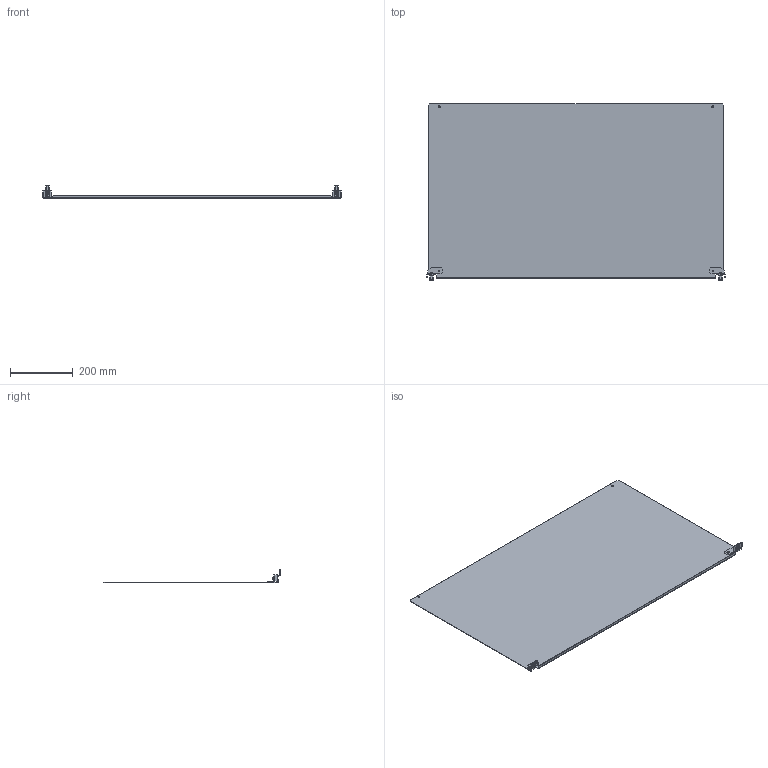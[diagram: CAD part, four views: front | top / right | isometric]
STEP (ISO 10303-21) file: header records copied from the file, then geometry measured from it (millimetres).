
FILE_DESCRIPTION(('CAx-IF Rec.Pracs.---Model Styling and Organization---1.2---2011-12-15','CAx-IF Rec.Pracs.---Geometric and Assembly Validation Properties---4.1---2014-06-16','CAx-IF Rec.Pracs.---PMI Polyline Presentation---2.0---2013-05-24'),'2;1');
FILE_NAME('R5RCB1006.stp','2021-05-06T04:10:16+03:00',(''),(''),'STEP Interface 4.4 by CT CoreTechnologie','3D_Evolution4.4 by CT CoreTechnologie','');
FILE_SCHEMA(('AUTOMOTIVE_DESIGN { 1 0 10303 214 1 1 1 1 }'));
Length unit declared in the file: millimetre
Products named in the file (6): R5RCB1006; RB.0545.00.00.1_-08 600x1000; M6x16-DIN 7985 ISR_thread; AC00C485; RB.0546.00.00.0_-00; RB.0546.00.00.0_-01
Assembly tree (7 placements, depth 2):
  R5RCB1006
    RB.0545.00.00.1_-08 600x1000
    M6x16-DIN 7985 ISR_thread  x2
    AC00C485  x2
    RB.0546.00.00.0_-00
    RB.0546.00.00.0_-01
Bounding box: 955 x 565.5 x 42.55 mm (x, y, z)
Surface area: 1085517.6 mm2 (no closed solid volume)
Topology: 0 solids, 11 shells, 265 faces, 661 edges, 412 vertices
Faces by surface type: plane 137, cylinder 100, bspline 28
Entity records: 5895 total; most frequent: CARTESIAN_POINT 1403, DIRECTION 874, ORIENTED_EDGE 870, EDGE_CURVE 435, VECTOR 304, LINE 304, AXIS2_PLACEMENT_3D 285, VERTEX_POINT 278
